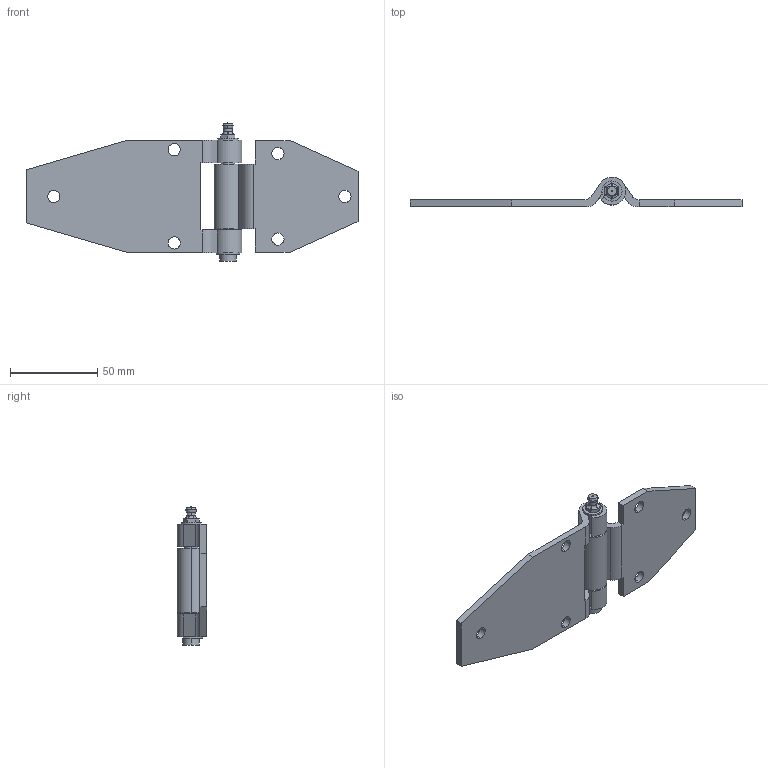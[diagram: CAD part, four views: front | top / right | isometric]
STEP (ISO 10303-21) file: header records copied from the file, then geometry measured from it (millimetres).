
FILE_DESCRIPTION (( 'STEP AP203' ), '1' );
FILE_NAME ('XG02-088-1.STEP', '2023-12-21T08:54:18', ( '' ), ( '' ), 'SwSTEP 2.0', 'SolidWorks 2020', '' );
FILE_SCHEMA (( 'CONFIG_CONTROL_DESIGN' ));
Length unit declared in the file: millimetre
Products named in the file (1): XG02-088-1
Bounding box: 190.47 x 16.99 x 79.5 mm (x, y, z)
Volume: 48593.9 mm3; surface area: 28352.4 mm2
Topology: 3 solids, 3 shells, 116 faces, 307 edges, 197 vertices
Faces by surface type: plane 53, cylinder 45, bspline 6, torus 6, sphere 4, cone 2
Entity records: 3900 total; most frequent: CARTESIAN_POINT 879, DIRECTION 643, ORIENTED_EDGE 602, EDGE_CURVE 301, AXIS2_PLACEMENT_3D 239, VERTEX_POINT 195, VECTOR 165, LINE 165
